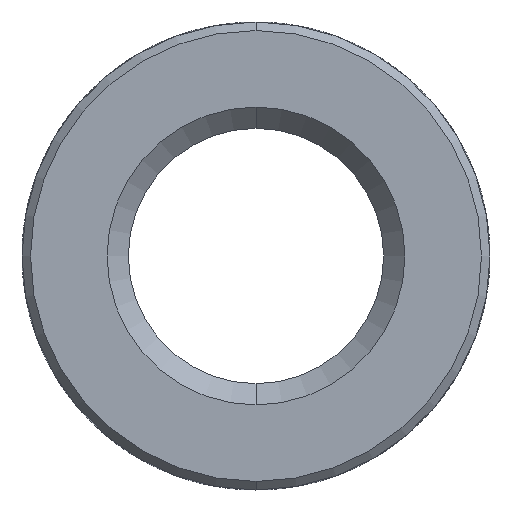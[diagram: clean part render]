
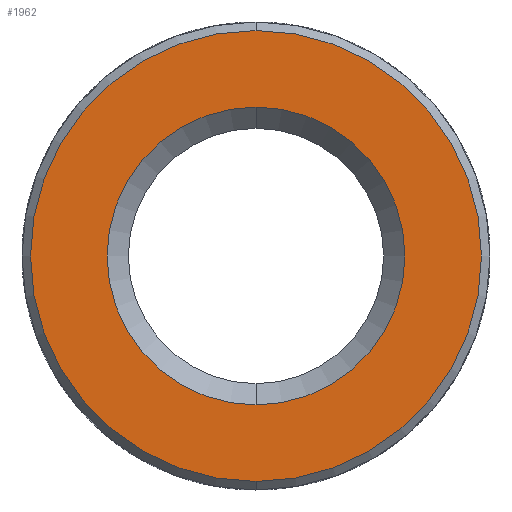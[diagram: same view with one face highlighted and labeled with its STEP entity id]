
A CAD part, front view. The second image highlights one B-rep face of the part: STEP entity #1962.
In plain terms, the highlighted planar face has unit normal (0, -1, 0).
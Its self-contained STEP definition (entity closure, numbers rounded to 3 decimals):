
#107 = VERTEX_POINT ( 'NONE', #1043 ) ;
#133 = EDGE_CURVE ( 'NONE', #3414, #107, #2680, .T. ) ;
#319 = ORIENTED_EDGE ( 'NONE', *, *, #2951, .T. ) ;
#367 = CARTESIAN_POINT ( 'NONE',  ( 0., -4.3, 0. ) ) ;
#481 = ORIENTED_EDGE ( 'NONE', *, *, #133, .T. ) ;
#541 = DIRECTION ( 'NONE',  ( 0., -1., 0. ) ) ;
#809 = VERTEX_POINT ( 'NONE', #2443 ) ;
#834 = EDGE_CURVE ( 'NONE', #809, #1777, #2090, .T. ) ;
#1043 = CARTESIAN_POINT ( 'NONE',  ( 0., -4.3, -2.65 ) ) ;
#1201 = CARTESIAN_POINT ( 'NONE',  ( 0., -4.3, -1.75 ) ) ;
#1293 = DIRECTION ( 'NONE',  ( 0., 1., 0. ) ) ;
#1313 = DIRECTION ( 'NONE',  ( 0., 0., -1. ) ) ;
#1439 = CIRCLE ( 'NONE', #3560, 1.75 ) ;
#1509 = EDGE_CURVE ( 'NONE', #107, #3414, #2668, .T. ) ;
#1617 = ORIENTED_EDGE ( 'NONE', *, *, #834, .T. ) ;
#1777 = VERTEX_POINT ( 'NONE', #1201 ) ;
#1892 = DIRECTION ( 'NONE',  ( 0., 0., -1. ) ) ;
#1962 = ADVANCED_FACE ( 'NONE', ( #2201, #3670 ), #3464, .T. ) ;
#2017 = EDGE_LOOP ( 'NONE', ( #481, #3568 ) ) ;
#2032 = AXIS2_PLACEMENT_3D ( 'NONE', #3570, #541, #3273 ) ;
#2065 = AXIS2_PLACEMENT_3D ( 'NONE', #367, #2800, #3113 ) ;
#2090 = CIRCLE ( 'NONE', #3829, 1.75 ) ;
#2184 = CARTESIAN_POINT ( 'NONE',  ( 0., -4.3, 2.75 ) ) ;
#2201 = FACE_OUTER_BOUND ( 'NONE', #2017, .T. ) ;
#2443 = CARTESIAN_POINT ( 'NONE',  ( 0., -4.3, 1.75 ) ) ;
#2541 = DIRECTION ( 'NONE',  ( 0., -1., 0. ) ) ;
#2668 = CIRCLE ( 'NONE', #2065, 2.65 ) ;
#2680 = CIRCLE ( 'NONE', #2032, 2.65 ) ;
#2728 = CARTESIAN_POINT ( 'NONE',  ( 0., -4.3, 2.65 ) ) ;
#2800 = DIRECTION ( 'NONE',  ( 0., -1., 0. ) ) ;
#2810 = AXIS2_PLACEMENT_3D ( 'NONE', #2184, #2541, #1313 ) ;
#2951 = EDGE_CURVE ( 'NONE', #1777, #809, #1439, .T. ) ;
#3113 = DIRECTION ( 'NONE',  ( 0., 0., -1. ) ) ;
#3170 = EDGE_LOOP ( 'NONE', ( #319, #1617 ) ) ;
#3273 = DIRECTION ( 'NONE',  ( 0., 0., -1. ) ) ;
#3414 = VERTEX_POINT ( 'NONE', #2728 ) ;
#3416 = CARTESIAN_POINT ( 'NONE',  ( 0., -4.3, 0. ) ) ;
#3464 = PLANE ( 'NONE',  #2810 ) ;
#3526 = DIRECTION ( 'NONE',  ( 0., 1., 0. ) ) ;
#3560 = AXIS2_PLACEMENT_3D ( 'NONE', #3807, #3526, #3822 ) ;
#3568 = ORIENTED_EDGE ( 'NONE', *, *, #1509, .T. ) ;
#3570 = CARTESIAN_POINT ( 'NONE',  ( 0., -4.3, 0. ) ) ;
#3670 = FACE_BOUND ( 'NONE', #3170, .T. ) ;
#3807 = CARTESIAN_POINT ( 'NONE',  ( 0., -4.3, 0. ) ) ;
#3822 = DIRECTION ( 'NONE',  ( 0., 0., -1. ) ) ;
#3829 = AXIS2_PLACEMENT_3D ( 'NONE', #3416, #1293, #1892 ) ;
